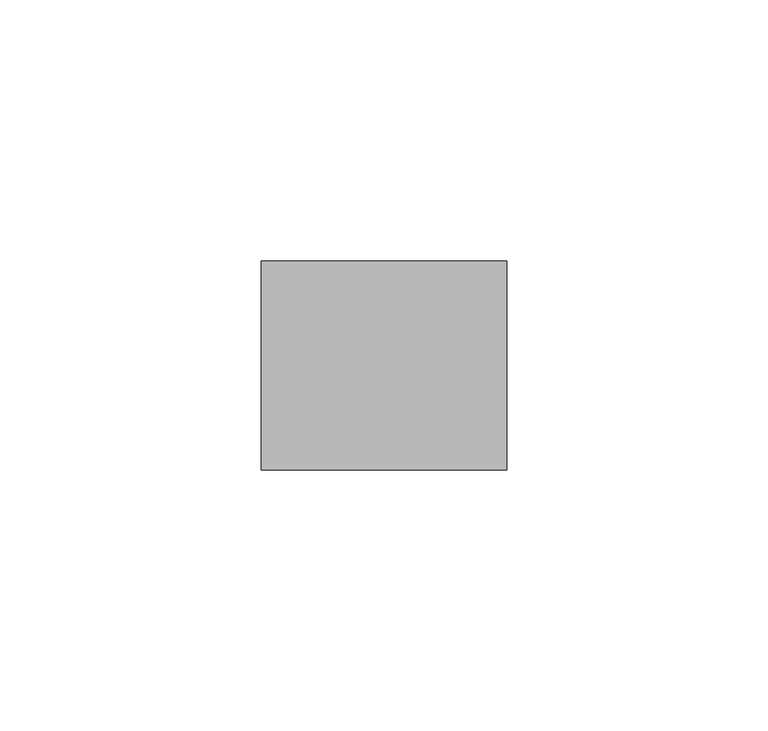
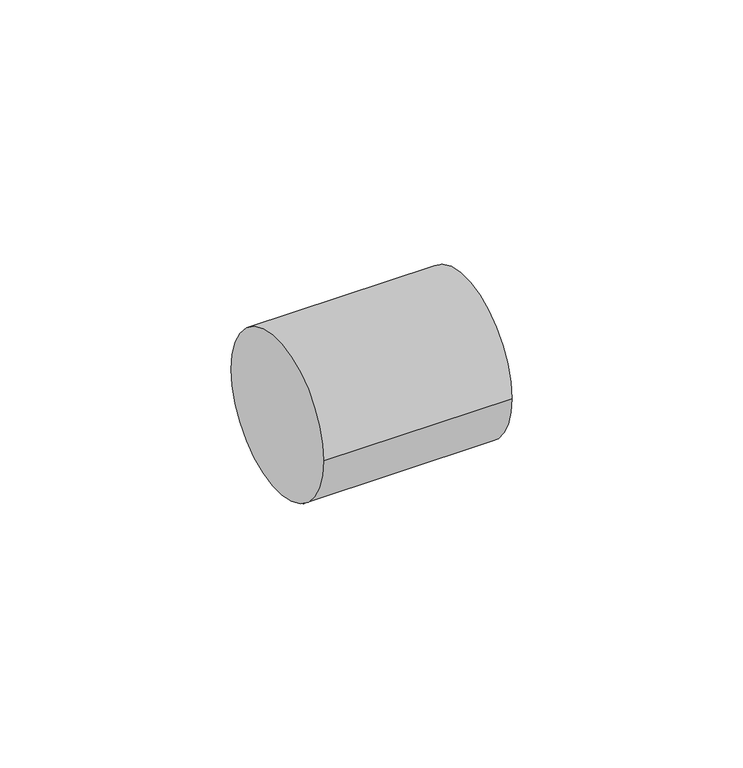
"""IFC4 building model written with IfcOpenShell, lengths in millimetres: pipe fitting geometry, 01051005 : Uniao Simples."""

from ifc_helpers import new_model, si_unit, point, frame, origin, origin_2d, place, context, project, spatial, circle_curve, trimmed, segment, composite_curve, outline, extrude, source, transform, mapped, element, save


def pipe_fitting_7e3883ba(model_context):
    return source(origin(), model_context, "Body", "SweptSolid", [
        extrude(outline(composite_curve([segment(trimmed(circle_curve(origin_2d(), 20.0), [point((-20.0, 0.0))], [point((20.0, 0.0))], False, "CARTESIAN"), True, "CONTINUOUS"), segment(trimmed(circle_curve(origin_2d(), 20.0), [point((20.0, 0.0))], [point((-20.0, 0.0))], False, "CARTESIAN"), True, "CONTINUOUS")], self_intersect=False)), frame((-23.5, 0.0, 0.0), z_axis=(1.0, 0.0, 0.0), x_axis=(0.0, 1.0, 0.0)), (0.0, 0.0, 1.0), 47.0),
    ])


if __name__ == "__main__":
    model = new_model("IFC4")
    model_context = context("Model", 3, world=origin())
    ifc_project = project(units=[si_unit("LENGTHUNIT", "METRE", prefix="MILLI")], contexts=[model_context])
    site = spatial("IfcSite", under=ifc_project)
    building = spatial("IfcBuilding", under=site)
    placement = place(None, origin())
    pipe_fitting_shape = pipe_fitting_7e3883ba(model_context)
    element("IfcPipeFitting", 1, ObjectType="01051005 : Uniao Simples", at=placement, inside=building, context=model_context, shape_type="MappedRepresentation", body=[
        mapped(pipe_fitting_shape, transform((0.0, 0.0, 0.0), x_axis=(1.0, 0.0, 0.0), y_axis=(0.0, 1.0, 0.0), z_axis=(0.0, 0.0, 1.0))),
    ])
    save(model, "model.ifc")
